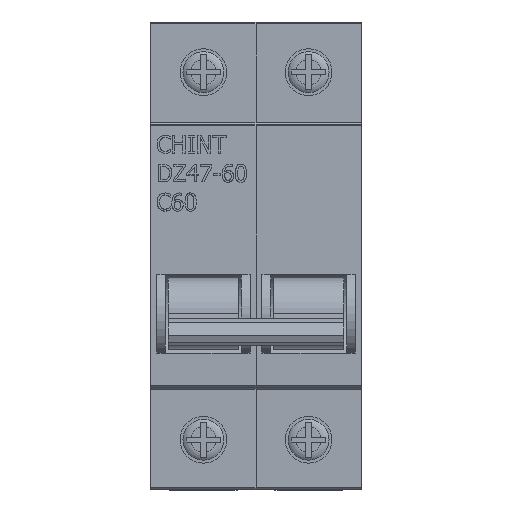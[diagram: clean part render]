
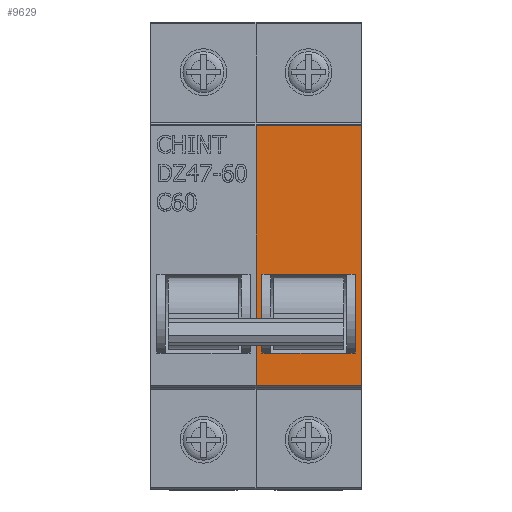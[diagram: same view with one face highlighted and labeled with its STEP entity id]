
A CAD part, top view. The second image highlights one B-rep face of the part: STEP entity #9629.
In plain terms, the highlighted planar face has unit normal (0, 0, 1).
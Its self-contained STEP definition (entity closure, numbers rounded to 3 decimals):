
#444=FACE_BOUND('',#1728,.T.);
#1061=FACE_OUTER_BOUND('',#1727,.T.);
#1727=EDGE_LOOP('',(#8347,#8348,#8349,#8350));
#1728=EDGE_LOOP('',(#8351,#8352,#8353,#8354,#8355,#8356,#8357,#8358));
#2532=LINE('',#16438,#3423);
#2538=LINE('',#16450,#3429);
#2570=LINE('',#16520,#3461);
#2639=LINE('',#16699,#3530);
#2640=LINE('',#16701,#3531);
#2641=LINE('',#16704,#3532);
#2644=LINE('',#16743,#3535);
#2647=LINE('',#16754,#3538);
#2648=LINE('',#16758,#3539);
#2649=LINE('',#16766,#3540);
#2650=LINE('',#16768,#3541);
#2653=LINE('',#16791,#3544);
#3423=VECTOR('',#11947,10.);
#3429=VECTOR('',#11957,10.);
#3461=VECTOR('',#11999,10.);
#3530=VECTOR('',#12186,10.);
#3531=VECTOR('',#12187,10.);
#3532=VECTOR('',#12192,10.);
#3535=VECTOR('',#12243,10.);
#3538=VECTOR('',#12252,10.);
#3539=VECTOR('',#12255,10.);
#3540=VECTOR('',#12266,10.);
#3541=VECTOR('',#12269,10.);
#3544=VECTOR('',#12306,10.);
#4523=VERTEX_POINT('',#16435);
#4524=VERTEX_POINT('',#16437);
#4528=VERTEX_POINT('',#16449);
#4560=VERTEX_POINT('',#16516);
#4610=VERTEX_POINT('',#16689);
#4611=VERTEX_POINT('',#16691);
#4612=VERTEX_POINT('',#16698);
#4613=VERTEX_POINT('',#16700);
#4625=VERTEX_POINT('',#16742);
#4630=VERTEX_POINT('',#16752);
#4631=VERTEX_POINT('',#16756);
#4632=VERTEX_POINT('',#16757);
#5750=EDGE_CURVE('',#4523,#4524,#2532,.T.);
#5756=EDGE_CURVE('',#4528,#4524,#2538,.T.);
#5792=EDGE_CURVE('',#4528,#4560,#2570,.T.);
#5877=EDGE_CURVE('',#4611,#4612,#2639,.T.);
#5878=EDGE_CURVE('',#4613,#4610,#2640,.T.);
#5880=EDGE_CURVE('',#4612,#4613,#2641,.T.);
#5896=EDGE_CURVE('',#4625,#4611,#2644,.T.);
#5902=EDGE_CURVE('',#4610,#4630,#2647,.T.);
#5903=EDGE_CURVE('',#4631,#4632,#2648,.T.);
#5907=EDGE_CURVE('',#4630,#4631,#2649,.T.);
#5909=EDGE_CURVE('',#4632,#4625,#2650,.T.);
#5917=EDGE_CURVE('',#4560,#4523,#2653,.T.);
#8347=ORIENTED_EDGE('',*,*,#5750,.F.);
#8348=ORIENTED_EDGE('',*,*,#5917,.F.);
#8349=ORIENTED_EDGE('',*,*,#5792,.F.);
#8350=ORIENTED_EDGE('',*,*,#5756,.T.);
#8351=ORIENTED_EDGE('',*,*,#5880,.T.);
#8352=ORIENTED_EDGE('',*,*,#5878,.T.);
#8353=ORIENTED_EDGE('',*,*,#5902,.T.);
#8354=ORIENTED_EDGE('',*,*,#5907,.T.);
#8355=ORIENTED_EDGE('',*,*,#5903,.T.);
#8356=ORIENTED_EDGE('',*,*,#5909,.T.);
#8357=ORIENTED_EDGE('',*,*,#5896,.T.);
#8358=ORIENTED_EDGE('',*,*,#5877,.T.);
#9042=PLANE('',#10279);
#9629=ADVANCED_FACE('',(#1061,#444),#9042,.T.);
#10279=AXIS2_PLACEMENT_3D('',#16790,#12304,#12305);
#11947=DIRECTION('',(-1.,0.,0.));
#11957=DIRECTION('',(0.,-1.,0.));
#11999=DIRECTION('',(1.,0.,0.));
#12186=DIRECTION('',(1.,0.,0.));
#12187=DIRECTION('',(-1.,0.,0.));
#12192=DIRECTION('',(0.,-1.,0.));
#12243=DIRECTION('',(1.,0.,0.));
#12252=DIRECTION('',(-1.,0.,0.));
#12255=DIRECTION('',(0.,1.,0.));
#12266=DIRECTION('',(-1.,0.,0.));
#12269=DIRECTION('',(1.,0.,0.));
#12304=DIRECTION('center_axis',(0.,0.,1.));
#12305=DIRECTION('ref_axis',(0.,-1.,0.));
#12306=DIRECTION('',(0.,-1.,0.));
#16435=CARTESIAN_POINT('',(36.,-17.539,28.7));
#16437=CARTESIAN_POINT('',(18.,-17.539,28.7));
#16438=CARTESIAN_POINT('',(18.,-17.539,28.7));
#16449=CARTESIAN_POINT('',(18.,26.861,28.7));
#16450=CARTESIAN_POINT('',(18.,27.161,28.7));
#16516=CARTESIAN_POINT('',(36.,26.861,28.7));
#16520=CARTESIAN_POINT('',(18.,26.861,28.7));
#16689=CARTESIAN_POINT('',(33.5,-12.013,28.7));
#16691=CARTESIAN_POINT('',(33.5,1.44,28.7));
#16698=CARTESIAN_POINT('',(35.,1.44,28.7));
#16699=CARTESIAN_POINT('',(27.,1.44,28.7));
#16700=CARTESIAN_POINT('',(35.,-12.013,28.7));
#16701=CARTESIAN_POINT('',(27.,-12.013,28.7));
#16704=CARTESIAN_POINT('',(35.,10.937,28.7));
#16742=CARTESIAN_POINT('',(20.5,1.44,28.7));
#16743=CARTESIAN_POINT('',(27.,1.44,28.7));
#16752=CARTESIAN_POINT('',(20.5,-12.013,28.7));
#16754=CARTESIAN_POINT('',(27.,-12.013,28.7));
#16756=CARTESIAN_POINT('',(19.,-12.013,28.7));
#16757=CARTESIAN_POINT('',(19.,1.44,28.7));
#16758=CARTESIAN_POINT('',(19.,10.937,28.7));
#16766=CARTESIAN_POINT('',(27.,-12.013,28.7));
#16768=CARTESIAN_POINT('',(27.,1.44,28.7));
#16790=CARTESIAN_POINT('Origin',(18.,27.161,28.7));
#16791=CARTESIAN_POINT('',(36.,27.161,28.7));
